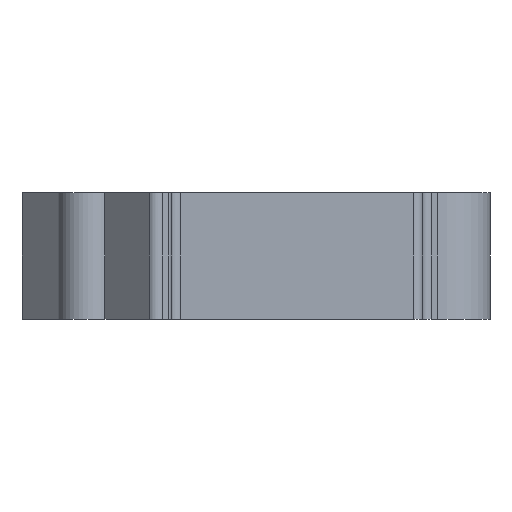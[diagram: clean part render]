
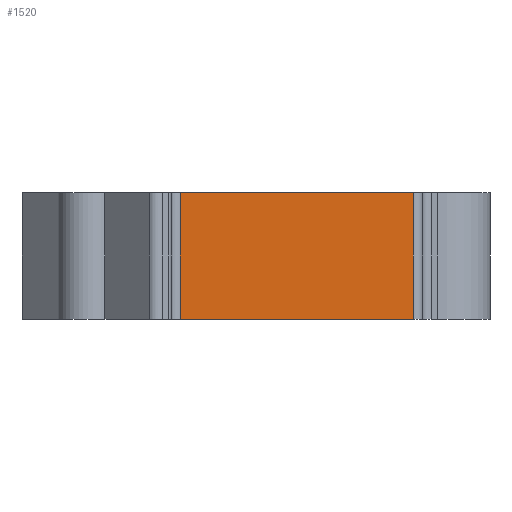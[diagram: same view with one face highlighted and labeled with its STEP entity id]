
A CAD part, front view. The second image highlights one B-rep face of the part: STEP entity #1520.
In plain terms, the highlighted planar face has unit normal (0, -1, 0).
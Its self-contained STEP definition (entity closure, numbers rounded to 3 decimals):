
#19 = CARTESIAN_POINT ( 'NONE',  ( 34.2, -8.4, 13.8 ) ) ;
#91 = VERTEX_POINT ( 'NONE', #333 ) ;
#164 = CARTESIAN_POINT ( 'NONE',  ( 8.725, -8.4, 13.8 ) ) ;
#209 = AXIS2_PLACEMENT_3D ( 'NONE', #1638, #2371, #513 ) ;
#220 = VECTOR ( 'NONE', #948, 1000. ) ;
#249 = CARTESIAN_POINT ( 'NONE',  ( 34.2, -8.4, 13.8 ) ) ;
#291 = LINE ( 'NONE', #888, #1969 ) ;
#320 = FACE_OUTER_BOUND ( 'NONE', #2162, .T. ) ;
#333 = CARTESIAN_POINT ( 'NONE',  ( 8.725, -8.4, 0. ) ) ;
#513 = DIRECTION ( 'NONE',  ( 0., 0., 1. ) ) ;
#522 = DIRECTION ( 'NONE',  ( 1., 0., 0. ) ) ;
#528 = CARTESIAN_POINT ( 'NONE',  ( 34.2, -8.4, 0. ) ) ;
#619 = DIRECTION ( 'NONE',  ( 0., 0., -1. ) ) ;
#672 = DIRECTION ( 'NONE',  ( 1., 0., 0. ) ) ;
#838 = VERTEX_POINT ( 'NONE', #164 ) ;
#888 = CARTESIAN_POINT ( 'NONE',  ( 1.7, -8.4, 13.8 ) ) ;
#920 = VECTOR ( 'NONE', #619, 1000. ) ;
#948 = DIRECTION ( 'NONE',  ( 0., 0., 1. ) ) ;
#980 = LINE ( 'NONE', #1381, #920 ) ;
#1006 = ORIENTED_EDGE ( 'NONE', *, *, #2170, .T. ) ;
#1143 = LINE ( 'NONE', #19, #220 ) ;
#1345 = VERTEX_POINT ( 'NONE', #528 ) ;
#1363 = ORIENTED_EDGE ( 'NONE', *, *, #2157, .F. ) ;
#1381 = CARTESIAN_POINT ( 'NONE',  ( 8.725, -8.4, 13.8 ) ) ;
#1436 = PLANE ( 'NONE',  #209 ) ;
#1520 = ADVANCED_FACE ( 'NONE', ( #320 ), #1436, .F. ) ;
#1534 = VECTOR ( 'NONE', #672, 1000. ) ;
#1638 = CARTESIAN_POINT ( 'NONE',  ( 1.7, -8.4, 13.8 ) ) ;
#1674 = EDGE_CURVE ( 'NONE', #1345, #2102, #1143, .T. ) ;
#1963 = EDGE_CURVE ( 'NONE', #838, #91, #980, .T. ) ;
#1969 = VECTOR ( 'NONE', #522, 1000. ) ;
#1982 = ORIENTED_EDGE ( 'NONE', *, *, #1963, .T. ) ;
#1985 = LINE ( 'NONE', #2141, #1534 ) ;
#2072 = ORIENTED_EDGE ( 'NONE', *, *, #1674, .T. ) ;
#2102 = VERTEX_POINT ( 'NONE', #249 ) ;
#2141 = CARTESIAN_POINT ( 'NONE',  ( 1.7, -8.4, 0. ) ) ;
#2157 = EDGE_CURVE ( 'NONE', #838, #2102, #291, .T. ) ;
#2162 = EDGE_LOOP ( 'NONE', ( #1363, #1982, #1006, #2072 ) ) ;
#2170 = EDGE_CURVE ( 'NONE', #91, #1345, #1985, .T. ) ;
#2371 = DIRECTION ( 'NONE',  ( 0., 1., 0. ) ) ;
